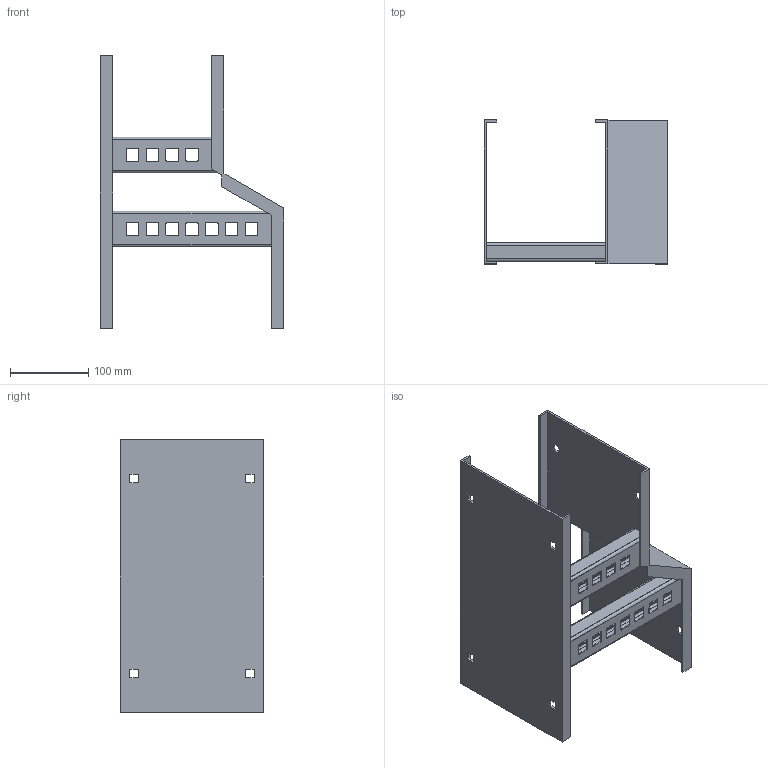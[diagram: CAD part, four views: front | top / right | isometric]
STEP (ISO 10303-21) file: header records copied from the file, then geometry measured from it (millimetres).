
FILE_DESCRIPTION((''),'2;1');
FILE_NAME('AUF70906LHRR_ASM','2010-01-27T',('erouzier'),(''),'PRO/ENGINEER BY PARAMETRIC TECHNOLOGY CORPORATION, 2008510','PRO/ENGINEER BY PARAMETRIC TECHNOLOGY CORPORATION, 2008510','');
FILE_SCHEMA(('CONFIG_CONTROL_DESIGN'));
Length unit declared in the file: inch
Products named in the file (5): CDS013975-7-3; CDS013866-7-30; CDS002159L9-P; CDS002159L6-P_AF2; AUF70906LHRR_ASM
Assembly tree (4 placements, depth 2):
  AUF70906LHRR_ASM
    CDS013975-7-3
    CDS013866-7-30
    CDS002159L9-P
    CDS002159L6-P_AF2
Bounding box: 234.19 x 183.9 x 348.79 mm (x, y, z)
Volume: 481554.2 mm3; surface area: 402171.4 mm2
Topology: 4 solids, 4 shells, 214 faces, 612 edges, 406 vertices
Faces by surface type: plane 148, cylinder 66
Entity records: 7175 total; most frequent: CARTESIAN_POINT 1241, ORIENTED_EDGE 1224, DIRECTION 1190, EDGE_CURVE 612, VECTOR 480, LINE 480, VERTEX_POINT 406, AXIS2_PLACEMENT_3D 355
